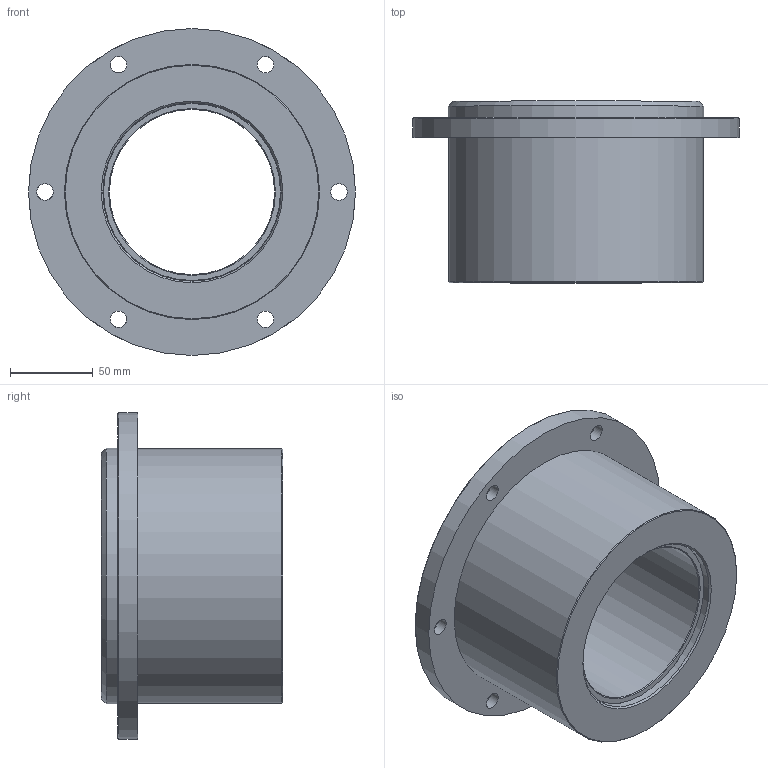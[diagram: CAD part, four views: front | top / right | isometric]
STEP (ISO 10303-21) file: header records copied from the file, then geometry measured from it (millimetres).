
FILE_DESCRIPTION(('STEP AP214'),'1');
FILE_NAME('C:/Projets/Serie 10.xx.xx/10.13.10.step','2011-11-10T15:52:14',(' '),(' '),'Spatial InterOp 3D',' ',' ');
FILE_SCHEMA(('automotive_design'));
Length unit declared in the file: metre
Products named in the file (3): boitier 10; rotule 10; 1
Bounding box: 198 x 110 x 198 mm (x, y, z)
Volume: 1205704.5 mm3; surface area: 211917.3 mm2
Topology: 2 solids, 2 shells, 60 faces, 1396 edges, 2566 vertices
Faces by surface type: cone 25, cylinder 19, plane 14, sphere 2
Full cylindrical faces by diameter (mm): 10 x6, 100 x1, 108 x1, 154.5 x1, 155 x1, 198 x1
Entity records: 17133 total; most frequent: CARTESIAN_POINT 1636, DIRECTION 1548, STYLED_ITEM 1297, PRESENTATION_STYLE_ASSIGNMENT 1297, COLOUR_RGB 1297, LINE 1256, VECTOR 1256, TRIMMED_CURVE 1237
